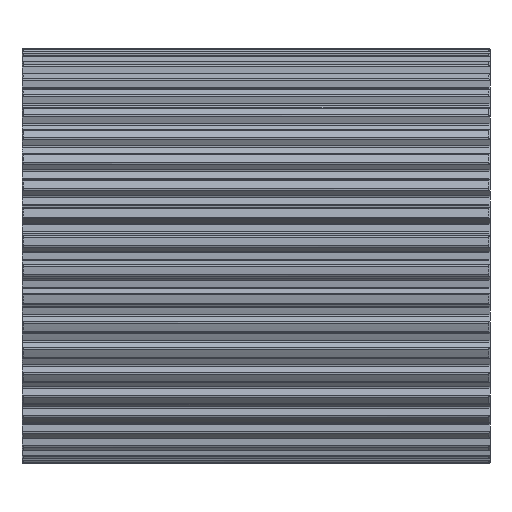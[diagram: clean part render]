
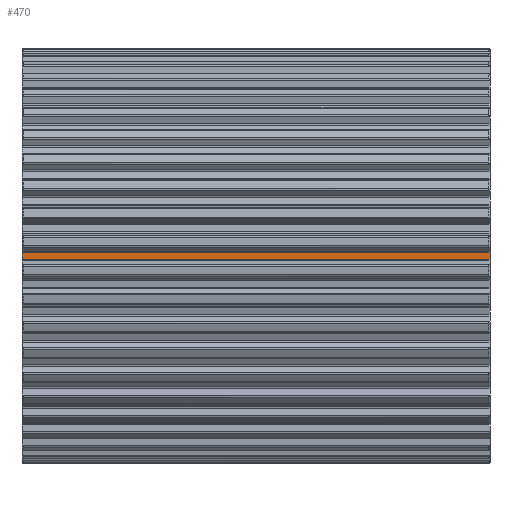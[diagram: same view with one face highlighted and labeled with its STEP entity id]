
A CAD part, front view. The second image highlights one B-rep face of the part: STEP entity #470.
In plain terms, the highlighted cylindrical face has radius 68.212 mm (diameter 136.424 mm), a partial arc.
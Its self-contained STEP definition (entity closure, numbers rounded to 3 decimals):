
#470=ADVANCED_FACE('',(#1333),#1334,.T.);
#1333=FACE_OUTER_BOUND('',#2267,.T.);
#1334=CYLINDRICAL_SURFACE('',#2268,68.212);
#2267=EDGE_LOOP('',(#5802,#5803,#5804,#5805));
#2268=AXIS2_PLACEMENT_3D('',#5806,#5807,#5808);
#5802=ORIENTED_EDGE('',*,*,#7727,.F.);
#5803=ORIENTED_EDGE('',*,*,#7832,.T.);
#5804=ORIENTED_EDGE('',*,*,#7833,.F.);
#5805=ORIENTED_EDGE('',*,*,#7830,.T.);
#5806=CARTESIAN_POINT('',(80.0,0.0,0.0));
#5807=DIRECTION('',(1.0,0.0,0.0));
#5808=DIRECTION('',(0.0,0.0,-1.0));
#7727=EDGE_CURVE('',#9935,#9937,#9938,.T.);
#7830=EDGE_CURVE('',#10081,#9937,#10082,.T.);
#7832=EDGE_CURVE('',#9935,#10084,#10085,.T.);
#7833=EDGE_CURVE('',#10081,#10084,#10086,.T.);
#9935=VERTEX_POINT('',#15940);
#9937=VERTEX_POINT('',#15942);
#9938=CIRCLE('',#15943,68.212);
#10081=VERTEX_POINT('',#16126);
#10082=LINE('',#16127,#16128);
#10084=VERTEX_POINT('',#16130);
#10085=LINE('',#16131,#16132);
#10086=CIRCLE('',#16133,68.212);
#15940=CARTESIAN_POINT('',(160.0,-68.201,1.191));
#15942=CARTESIAN_POINT('',(160.0,-68.201,-1.191));
#15943=AXIS2_PLACEMENT_3D('',#17801,#17802,#17803);
#16126=CARTESIAN_POINT('',(0.0,-68.201,-1.191));
#16127=CARTESIAN_POINT('',(0.0,-68.201,-1.191));
#16128=VECTOR('',#18030,1.0);
#16130=CARTESIAN_POINT('',(0.0,-68.201,1.191));
#16131=CARTESIAN_POINT('',(0.0,-68.201,1.191));
#16132=VECTOR('',#18034,1.0);
#16133=AXIS2_PLACEMENT_3D('',#18035,#18036,#18037);
#17801=CARTESIAN_POINT('',(160.0,0.0,0.0));
#17802=DIRECTION('',(1.0,0.0,0.0));
#17803=DIRECTION('',(0.0,0.0,-1.0));
#18030=DIRECTION('',(1.0,0.,0.));
#18034=DIRECTION('',(-1.0,0.,0.));
#18035=CARTESIAN_POINT('',(0.0,0.0,0.0));
#18036=DIRECTION('',(-1.0,0.0,0.0));
#18037=DIRECTION('',(0.0,0.0,-1.0));
